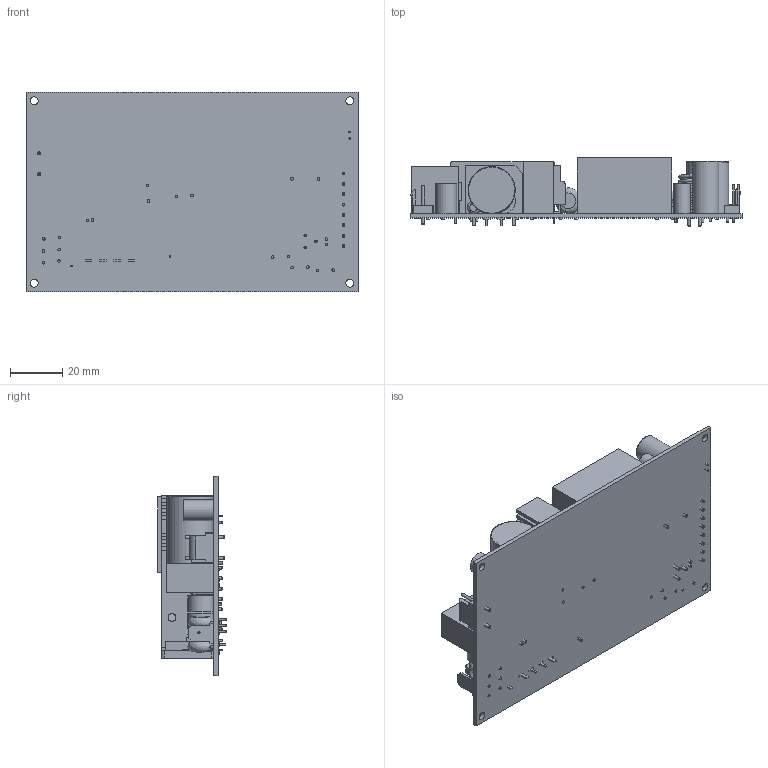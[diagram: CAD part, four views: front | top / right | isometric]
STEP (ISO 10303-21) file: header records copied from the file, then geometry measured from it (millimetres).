
FILE_DESCRIPTION (( 'STEP AP214' ), '1' );
FILE_NAME ('ECP225PS 3X5 CLEAN.STEP', '2013-05-10T19:01:37', ( 'dcook' ), ( '' ), 'SwSTEP 2.0', 'SolidWorks 2013', '' );
FILE_SCHEMA (( 'AUTOMOTIVE_DESIGN' ));
Length unit declared in the file: inch
Products named in the file (24): NTC-5mm; GND TAB 1; 3.96mm P101G-08-8; Cap-18X35.5; 3X5; 225W HS 1; ECP225PS 3X5 CLEAN; PHOTO-COUPLER; Cap-10X20; Cap-8-11; 225W HS 2; Y-Cap; MOSFET; Inductor R6x15; FUSE; LP2920; Cap-6.3-11; PQ-2620; 3.96 mm Locking Header 3-2pin; Common-choke; BRIDGE 18X22; 2-2 2.54mm; x-cap 18X11; VR
Assembly tree (38 placements, depth 2):
  ECP225PS 3X5 CLEAN
    PHOTO-COUPLER  x2
    Cap-10X20  x3
    Cap-8-11
    225W HS 2
    Y-Cap  x8
    MOSFET  x3
    Inductor R6x15
    FUSE  x2
    LP2920
    Cap-6.3-11
    PQ-2620
    3.96 mm Locking Header 3-2pin
    Common-choke  x2
    BRIDGE 18X22
    2-2 2.54mm
    x-cap 18X11
    VR
    225W HS 1
    Cap-18X35.5
    NTC-5mm  x2
    3.96mm P101G-08-8
    GND TAB 1
    3X5
Bounding box: 127 x 26.1 x 76.2 mm (x, y, z)
Volume: 83741.1 mm3; surface area: 53298.4 mm2
Topology: 38 solids, 38 shells, 708 faces, 1714 edges, 1159 vertices
Faces by surface type: plane 505, cylinder 142, bspline 61
Full cylindrical faces by diameter (mm): 0.6 x4, 0.8 x1, 0.9 x2, 1 x29, 1.14 x19, 1.141 x1, 3 x12, 5 x2, 5.613 x1, 6 x6, 6.3 x1, 6.8 x1, 6.943 x1, 8 x1, 9.02 x3, 10 x5, 18 x1
Entity records: 17666 total; most frequent: CARTESIAN_POINT 5281, ORIENTED_EDGE 2214, DIRECTION 2193, EDGE_CURVE 1107, VECTOR 803, LINE 803, VERTEX_POINT 795, AXIS2_PLACEMENT_3D 695
